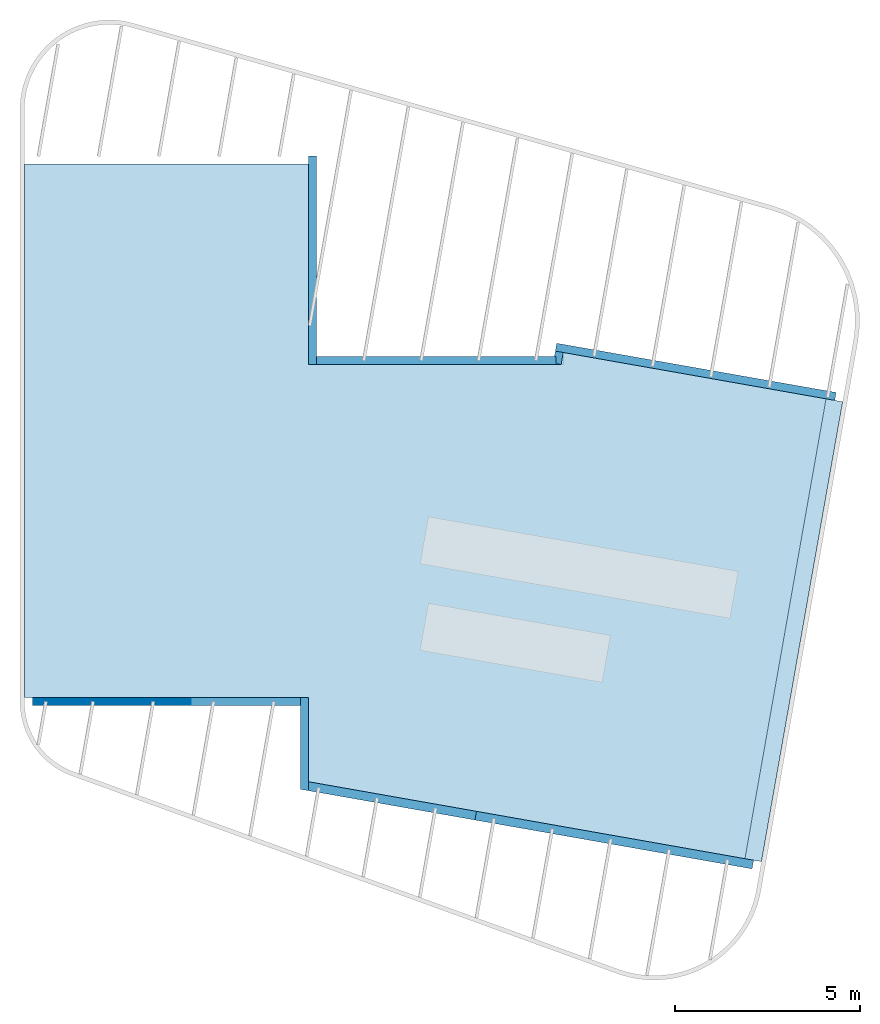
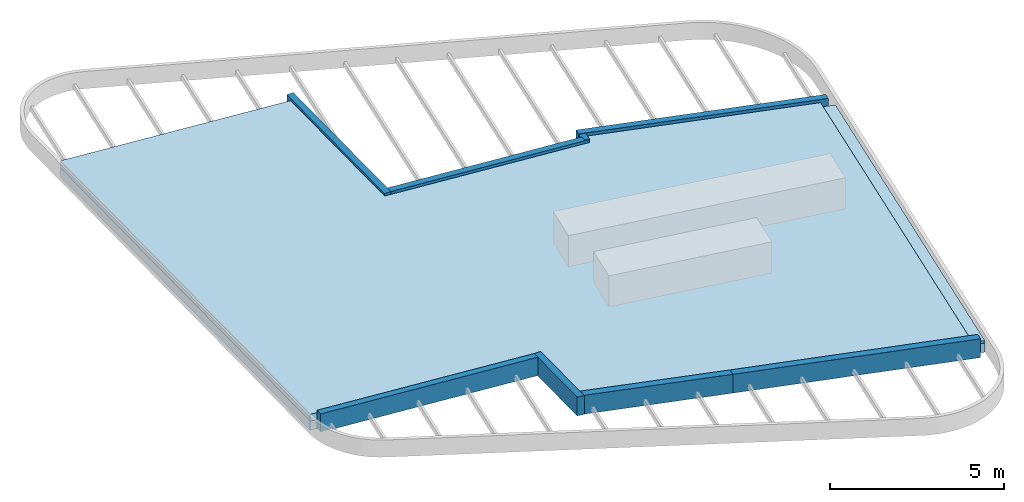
# One storey, part 2 of 3: 8 walls, 3 slabs, 1 opening, 2 elements without a shape of their own.
"""IFC2X3 building model written with IfcOpenShell, lengths in millimetres."""

from ifc_helpers import new_model, entity, si_unit, converted_unit, derived_unit, direction, frame, frame_2d, origin, place, context, subcontext, project, spatial, polyline, rectangle, outline, extrude, clip, halfspace, bounded_halfspace, faceted_brep, material, layer, layer_set, layer_usage, type_object, element, aggregate, save


model = new_model("IFC2X3")

# Units and contexts
model_context = context("Model", 3, precision=0.01, world=origin(), true_north=direction((6.12303176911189e-17, 1.0)))
body_context = subcontext(model_context, "Body", "Model", "MODEL_VIEW")
ifc_project = project(units=[si_unit("LENGTHUNIT", "METRE", prefix="MILLI"), si_unit("AREAUNIT", "SQUARE_METRE"), si_unit("VOLUMEUNIT", "CUBIC_METRE"), converted_unit("PLANEANGLEUNIT", "DEGREE", entity("IfcRatioMeasure", 0.0174532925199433), si_unit("PLANEANGLEUNIT", "RADIAN"), dimensions=[0, 0, 0, 0, 0, 0, 0]), si_unit("MASSUNIT", "GRAM", prefix="KILO"), derived_unit("MASSDENSITYUNIT", [(si_unit("MASSUNIT", "GRAM", prefix="KILO"), 1), (si_unit("LENGTHUNIT", "METRE"), -3)]), derived_unit("MOMENTOFINERTIAUNIT", [(si_unit("LENGTHUNIT", "METRE"), 4)]), si_unit("TIMEUNIT", "SECOND"), si_unit("FREQUENCYUNIT", "HERTZ"), si_unit("THERMODYNAMICTEMPERATUREUNIT", "DEGREE_CELSIUS"), derived_unit("THERMALTRANSMITTANCEUNIT", [(si_unit("MASSUNIT", "GRAM", prefix="KILO"), 1), (si_unit("THERMODYNAMICTEMPERATUREUNIT", "KELVIN"), -1), (si_unit("TIMEUNIT", "SECOND"), -3)]), derived_unit("VOLUMETRICFLOWRATEUNIT", [(si_unit("LENGTHUNIT", "METRE"), 3), (si_unit("TIMEUNIT", "SECOND"), -1)]), si_unit("ELECTRICCURRENTUNIT", "AMPERE"), si_unit("ELECTRICVOLTAGEUNIT", "VOLT"), si_unit("POWERUNIT", "WATT"), si_unit("FORCEUNIT", "NEWTON", prefix="KILO"), si_unit("ILLUMINANCEUNIT", "LUX"), si_unit("LUMINOUSFLUXUNIT", "LUMEN"), si_unit("LUMINOUSINTENSITYUNIT", "CANDELA"), derived_unit("USERDEFINED", [(si_unit("MASSUNIT", "GRAM", prefix="KILO"), -1), (si_unit("LENGTHUNIT", "METRE"), -2), (si_unit("TIMEUNIT", "SECOND"), 3), (si_unit("LUMINOUSFLUXUNIT", "LUMEN"), 1)]), derived_unit("LINEARVELOCITYUNIT", [(si_unit("LENGTHUNIT", "METRE"), 1), (si_unit("TIMEUNIT", "SECOND"), -1)]), si_unit("PRESSUREUNIT", "PASCAL"), derived_unit("USERDEFINED", [(si_unit("LENGTHUNIT", "METRE"), -2), (si_unit("MASSUNIT", "GRAM", prefix="KILO"), 1), (si_unit("TIMEUNIT", "SECOND"), -2)]), derived_unit("LINEARFORCEUNIT", [(si_unit("MASSUNIT", "GRAM", prefix="KILO"), 1), (si_unit("LENGTHUNIT", "METRE"), 1), (si_unit("TIMEUNIT", "SECOND"), -2), (si_unit("LENGTHUNIT", "METRE"), -1)]), derived_unit("PLANARFORCEUNIT", [(si_unit("MASSUNIT", "GRAM", prefix="KILO"), 1), (si_unit("LENGTHUNIT", "METRE"), 1), (si_unit("TIMEUNIT", "SECOND"), -2), (si_unit("LENGTHUNIT", "METRE"), -2)])], contexts=[model_context])

# Site, building, storey
site_placement = place(None, origin())
site = spatial("IfcSite", under=ifc_project, at=site_placement, Name="<Kadaster Gemeente>;<Kadaster nummer>;<Kadaster sectie>", CompositionType="ELEMENT")
building_placement = place(site_placement, origin())
building = spatial("IfcBuilding", under=site, at=building_placement, Name="JRCZ Middelburg", CompositionType="ELEMENT")
storey_placement = place(building_placement, frame((0.0, 0.0, 6000.0)))
storey = spatial("IfcBuildingStorey", under=building, at=storey_placement, Name="03 dak", CompositionType="ELEMENT", Elevation=6000.0)

# Slab
ifc_material_1 = material(Name="RBM_i4_multiplex_beplating")
ifc_layer_1 = layer(ifc_material_1, 320.0)
ifc_layer_set_1 = layer_set([ifc_layer_1], Name="Floor:RBM_23_FL_houten kanaalplaat-320mm")
ifc_layer_usage_1 = layer_usage(ifc_layer_set_1, "AXIS3", "POSITIVE", 0.0)
slab_type_1 = type_object("IfcSlabType", Name="Floor:RBM_23_FL_houten kanaalplaat-320mm", PredefinedType="FLOOR", material=ifc_layer_set_1)
slab_1_placement = place(storey_placement, origin())
element("IfcSlab", 1, at=slab_1_placement, inside=storey, type_object=slab_type_1, material=ifc_layer_usage_1, Name="Floor:RBM_23_FL_houten kanaalplaat-320mm", ObjectType="Floor:RBM_23_FL_houten kanaalplaat-320mm", PredefinedType="FLOOR", context=body_context, shape_type="Clipping", body=[
    clip(clip(extrude(outline(polyline([(-5726.64469005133, -10194.6566352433), (8674.5764825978, -10194.6566352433), (8667.208710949, -2513.79446142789), (3250.749414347, -2513.79446142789), (3244.1251105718, 4392.00646727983), (3573.19435637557, 4360.7415540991), (2232.26417186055, 11944.2358624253), (-10174.7657477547, 9747.50723239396), (-8006.69534719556, -2513.79446142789), (-5734.01246170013, -2513.79446142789), (-5726.64469005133, -10194.6566352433)])), frame((19706.9666840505, 15735.9373593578, 816.41828591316), z_axis=(-0.0736537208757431, 0.012987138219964, -0.997199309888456), x_axis=(0.0, 0.999915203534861, 0.0130225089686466)), (-0.0130225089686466, 0.0736474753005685, 0.997199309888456), 321.800000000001), halfspace(frame((30232.3182712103, 12740.6321031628, -320.898737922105), z_axis=(-0.0736537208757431, 0.0129871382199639, -0.997199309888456), x_axis=(-0.982049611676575, 0.173161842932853, 0.0747899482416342)), False)), halfspace(frame((30232.3182712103, 12740.6321031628, 0.0), z_axis=(0.0736537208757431, -0.0129871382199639, 0.997199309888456), x_axis=(0.982049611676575, -0.173161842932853, -0.0747899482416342)), False)),
])

# Roof, slab
roof_1_placement = place(storey_placement, frame((9540.0, 5650.01628147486, 0.0)))
roof_1 = element("IfcRoof", 2, at=roof_1_placement, inside=storey, Name="Basic Roof:Dak_isolatie+afwerking", ObjectType="Basic Roof:Dak_isolatie+afwerking", ShapeType="NOTDEFINED")
ifc_material_2 = material(Name="RBM_n7_dakisolatie_240mm")
ifc_layer_2 = layer(ifc_material_2, 240.0)
ifc_layer_set_2 = layer_set([ifc_layer_2], Name="Basic Roof:Dak_isolatie+afwerking")
slab_type_2 = type_object("IfcSlabType", Name="Basic Roof:Dak_isolatie+afwerking", PredefinedType="ROOF")
slab_2_placement = place(roof_1_placement, origin())
slab_2 = element("IfcSlab", 3, at=slab_2_placement, type_object=slab_type_2, material=ifc_layer_set_2, Name="Basic Roof:Dak_isolatie+afwerking", ObjectType="Basic Roof:Dak_isolatie+afwerking", PredefinedType="NOTDEFINED", context=body_context, shape_type="SweptSolid", body=[
    extrude(outline(polyline([(-2182.44211051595, -5678.3649175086), (-2182.44211051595, -7951.04780300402), (9631.69795042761, -10040.0500976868), (11825.623964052, 2367.47538674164), (4715.69669853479, 3624.66840257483), (4658.25895792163, 3299.8351009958), (-2182.44211051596, 3306.39695853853), (-2182.44211051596, 8722.8562551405), (-9863.30428433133, 8730.2240267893), (-9863.30428433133, -5670.99714585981), (-2182.44211051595, -5678.3649175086)])), frame((9836.5143271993, 10029.9604337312, 840.096879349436), z_axis=(0.0736537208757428, -0.0129871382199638, 0.997199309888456), x_axis=(0.997283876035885, 0.000959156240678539, -0.0736474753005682)), (-0.0736474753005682, 0.0130225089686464, 0.997199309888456), 240.674053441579),
])
aggregate(roof_1, [slab_2])

roof_2_placement = place(storey_placement, frame((28982.0513920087, 5571.38377816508, -30.7499999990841)))
roof_2 = element("IfcRoof", 4, at=roof_2_placement, inside=storey, Name="Basic Roof:Dak_isolatie goot", ObjectType="Basic Roof:Dak_isolatie goot", ShapeType="NOTDEFINED")
ifc_material_3 = material(Name="RBM_n7_dakisolatie_80")
ifc_layer_3 = layer(ifc_material_3, 80.0)
ifc_layer_set_3 = layer_set([ifc_layer_3], Name="Basic Roof:Dak_isolatie goot")
slab_type_3 = type_object("IfcSlabType", Name="Basic Roof:Dak_isolatie goot", PredefinedType="ROOF")
slab_3_placement = place(roof_2_placement, origin())
slab_3 = element("IfcSlab", 5, at=slab_3_placement, type_object=slab_type_3, material=ifc_layer_set_3, Name="Basic Roof:Dak_isolatie goot", ObjectType="Basic Roof:Dak_isolatie goot", PredefinedType="NOTDEFINED", context=body_context, shape_type="SweptSolid", body=[
    extrude(outline(polyline([(873.381945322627, 6243.29679727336), (-1320.54359272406, -6164.22877307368), (-873.382056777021, -6243.29742676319), (1323.3460970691, 6163.7325753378), (873.381945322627, 6243.29679727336)])), frame((1316.95711810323, 6243.60541040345, 17.0874243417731), z_axis=(0.0736507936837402, -0.0130037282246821, 0.997199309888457), x_axis=(0.997284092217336, 0.000960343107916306, -0.0736445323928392)), (-0.0736445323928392, 0.0130391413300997, 0.997199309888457), 80.224684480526),
])
aggregate(roof_2, [slab_3])

# Wall
ifc_material_4 = material(Name="gevel antraciet")
ifc_layer_4 = layer(ifc_material_4, 8.0)
ifc_material_5 = material(Name="ISR_Luchtspouw")
ifc_layer_5 = layer(ifc_material_5, 35.0)
ifc_layer_6 = layer(ifc_material_5, 35.0)
ifc_material_6 = material(Name="RBM_n7_isolatie_hsb_270")
ifc_layer_7 = layer(ifc_material_6, 138.0)
ifc_layer_set_4 = layer_set([ifc_layer_4, ifc_layer_5, ifc_layer_6, ifc_layer_7], Name="Basic Wall:21_RBM_WA_dakrand/pas strook_rockpanel")
ifc_layer_usage_2 = layer_usage(ifc_layer_set_4, "AXIS2", "NEGATIVE", 108.0)
wall_type_1 = type_object("IfcWallType", Name="Basic Wall:21_RBM_WA_dakrand/pas strook_rockpanel", PredefinedType="STANDARD", material=ifc_layer_set_4)
wall_1_placement = place(storey_placement, frame((17308.0, 24616.0, 722.987076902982), z_axis=(0.0, 0.0, 1.0), x_axis=(0.0, -1.0, 0.0)))
element("IfcWallStandardCase", 6, at=wall_1_placement, inside=storey, type_object=wall_type_1, material=ifc_layer_usage_2, Name="Basic Wall:21_RBM_WA_dakrand/pas strook_rockpanel", ObjectType="Basic Wall:21_RBM_WA_dakrand/pas strook_rockpanel", context=body_context, shape_type="Clipping", body=[
    clip(clip(extrude(rectangle(XDim=5632.00000000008, YDim=215.999999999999, at=frame_2d((2816.00000000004, 2.62900812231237e-13), x_axis=(-1.0, 0.0))), origin(), (0.0, 0.0, 1.0), 713.878868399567), halfspace(frame((5632.0, -108.0, 0.0), z_axis=(-0.0130225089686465, 0.0, -0.999915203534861), x_axis=(0.0, 1.0, 0.0)), False)), halfspace(frame((0.0, -108.0, 713.878868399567), z_axis=(0.0130225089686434, 0.0, 0.999915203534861), x_axis=(0.0, 1.0, 0.0)), False)),
])

# Wall, opening
ifc_layer_usage_3 = layer_usage(ifc_layer_set_4, "AXIS2", "NEGATIVE", 108.0)
wall_2_placement = place(storey_placement, frame((17416.0, 19092.0, 235.389408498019)))
wall_2 = element("IfcWallStandardCase", 7, at=wall_2_placement, inside=storey, type_object=wall_type_1, material=ifc_layer_usage_3, Name="Basic Wall:21_RBM_WA_dakrand/pas strook_rockpanel", ObjectType="Basic Wall:21_RBM_WA_dakrand/pas strook_rockpanel", context=body_context, shape_type="Clipping", body=[
    clip(extrude(rectangle(XDim=6606.12087633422, YDim=215.999999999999, at=frame_2d((3303.06043816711, -2.8421709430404e-14), x_axis=(-1.0, 0.0))), origin(), (0.0, 0.0, 1.0), 1128.12754655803), halfspace(frame((0.0, -108.0, 1128.12754655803), z_axis=(0.0726944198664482, 0.0, 0.997354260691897), x_axis=(0.0, 1.0, 0.0)), False)),
])
opening_placement = place(wall_2_placement, origin())
element("IfcOpeningElement", 8, at=opening_placement, cuts=wall_2, Name="Basic Wall:21_RBM_WA_dakrand/pas strook_rockpanel", ObjectType="Opening", context=body_context, shape_type="SweptSolid", body=[
    extrude(outline(polyline([(-3235.51142631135, -3192.5), (3471.31133267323, -3192.5), (2999.71151994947, 3192.5), (-3235.51142631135, 3192.5), (-3235.51142631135, -3192.5)])), frame((3216.44187850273, -260.400000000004, -2999.87798218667), z_axis=(0.0, 1.0, 0.0), x_axis=(0.0, 0.0, 1.0)), (0.0, 0.0, 1.0), 520.800000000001),
])

# Walls
wall_3_placement = place(storey_placement, frame((23915.761639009, 19002.7540031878, 330.265808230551), z_axis=(0.0, 0.0, 1.0), x_axis=(0.173648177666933, 0.984807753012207, 0.0)))
element("IfcWall", 9, at=wall_3_placement, inside=storey, type_object=wall_type_1, Name="Basic Wall:21_RBM_WA_dakrand/pas strook_rockpanel", ObjectType="Basic Wall:21_RBM_WA_dakrand/pas strook_rockpanel", context=body_context, shape_type="Brep", body=[
    faceted_brep([(0.0, -108.0, 0.0), (329.872350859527, -108.0, 0.0), (329.872350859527, -108.0, 209.734191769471), (329.872350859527, -108.0, 450.40824521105), (329.872350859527, -108.0, 562.155003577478), (0.0, -108.0, 562.155003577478), (0.0, -108.0, 551.749093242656), (0.0, -108.0, 450.40824521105), (0.0, -108.0, 209.734191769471), (181.24552033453, 108.0, 562.155003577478), (329.872350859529, 108.0, 562.155003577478), (329.872350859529, 108.0, 0.0), (181.245520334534, 108.0, 0.0), (212.718474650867, -70.4919936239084, 551.749093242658), (187.927209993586, 70.1062549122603, 562.155003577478), (212.718474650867, -70.4919936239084, 0.0), (0.0, 36.9696173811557, 562.155003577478)], [[[0, 1, 2, 3, 4, 5, 6, 7, 8]], [[9, 10, 11, 12]], [[13, 14, 9, 12, 15]], [[6, 13, 15, 0, 8, 7]], [[13, 6, 16, 14]], [[1, 0, 15, 12, 11]], [[5, 4, 10, 9, 14, 16]], [[5, 16, 6]], [[1, 11, 10, 4, 3, 2]]]),
])
ifc_layer_usage_4 = layer_usage(ifc_layer_set_4, "AXIS2", "NEGATIVE", 108.0)
wall_4_placement = place(storey_placement, frame((23885.4381374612, 19452.728092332, -339.031183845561), z_axis=(0.0, 0.0, 1.0), x_axis=(0.984807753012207, -0.173648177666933, 0.0)))
element("IfcWallStandardCase", 10, at=wall_4_placement, inside=storey, type_object=wall_type_1, material=ifc_layer_usage_4, Name="Basic Wall:21_RBM_WA_dakrand/pas strook_rockpanel", ObjectType="Basic Wall:21_RBM_WA_dakrand/pas strook_rockpanel", context=body_context, shape_type="Clipping", body=[
    clip(clip(extrude(rectangle(XDim=7654.00000000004, YDim=215.999999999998, at=frame_2d((3827.00000000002, -1.70530256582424e-12), x_axis=(-1.0, 0.0))), origin(), (0.0, 0.0, 1.0), 1249.09984622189), halfspace(frame((7654.0, -108.0, 0.0), z_axis=(-0.0762334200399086, 0.0, -0.997089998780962), x_axis=(0.0, 1.0, 0.0)), False)), halfspace(frame((0.0, -108.0, 1249.09984622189), z_axis=(0.075467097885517, 0.0, 0.997148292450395), x_axis=(0.0, 1.0, 0.0)), False)),
])
ifc_layer_usage_5 = layer_usage(ifc_layer_set_4, "AXIS2", "NEGATIVE", 108.0)
wall_5_placement = place(storey_placement, frame((17098.0, 7484.78033446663, 573.19459106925), z_axis=(0.0, 0.0, 1.0), x_axis=(0.0, 1.0, 0.0)))
element("IfcWallStandardCase", 11, at=wall_5_placement, inside=storey, type_object=wall_type_1, material=ifc_layer_usage_5, Name="Basic Wall:21_RBM_WA_dakrand/pas strook_rockpanel", ObjectType="Basic Wall:21_RBM_WA_dakrand/pas strook_rockpanel", context=body_context, shape_type="SweptSolid", body=[
    extrude(outline(polyline([(-1657.71493887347, -108.0), (819.041421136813, -108.0), (819.628585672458, -108.0), (857.718449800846, 108.0), (819.041421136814, 108.0), (-1657.71493887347, 108.0), (-1657.71493887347, -108.0)])), frame((857.645573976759, 0.0, 11.1807230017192), z_axis=(-0.0130354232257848, 0.0, 0.999915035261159), x_axis=(-0.999915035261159, 0.0, -0.0130354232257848)), (-0.0130354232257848, 0.0, 0.999915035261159), 661.587752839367),
])
ifc_layer_usage_6 = layer_usage(ifc_layer_set_4, "AXIS2", "NEGATIVE", 108.0)
wall_6_placement = place(storey_placement, frame((16990.0, 9892.0, 621.49365690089), z_axis=(0.0, 0.0, 1.0), x_axis=(-1.0, 0.0, 0.0)))
element("IfcWallStandardCase", 12, at=wall_6_placement, inside=storey, type_object=wall_type_1, material=ifc_layer_usage_6, Name="Basic Wall:21_RBM_WA_dakrand/pas strook_rockpanel", ObjectType="Basic Wall:21_RBM_WA_dakrand/pas strook_rockpanel", context=body_context, shape_type="Clipping", body=[
    clip(clip(clip(clip(extrude(rectangle(XDim=7227.99999999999, YDim=215.999999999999, at=frame_2d((3614.0, -3.69482222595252e-13), x_axis=(-1.0, 0.0))), origin(), (0.0, 0.0, 1.0), 1179.92635216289), bounded_halfspace(frame((6840.0, 108.0, 542.102995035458), z_axis=(-1.0, 0.0, 0.0), x_axis=(0.0, -1.0, 0.0)), True, frame((6840.0, 108.0, 542.102995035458), z_axis=(-1.0, 0.0, 0.0), x_axis=(0.0, -1.0, 0.0)), polyline([(0.0, 0.0), (0.0, -36.8966177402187), (216.0, -36.8966177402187), (216.0, 2.8386712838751), (0.0, 0.0)]))), bounded_halfspace(frame((6840.0, -108.0, 544.941666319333), z_axis=(0.0, 0.0131408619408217, 0.999913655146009), x_axis=(1.0, 0.0, 0.0)), True, frame((6840.0, -108.0, 544.941666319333), z_axis=(0.0, 0.0131408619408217, 0.999913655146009), x_axis=(1.0, 0.0, 0.0)), polyline([(0.0, 0.0), (388.0, 0.0), (388.0, 216.018652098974), (141.398562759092, 216.018652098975), (128.29614729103, 216.018652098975), (0.0, 216.018652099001), (0.0, 0.0)]))), halfspace(frame((0.0, -108.0, 0.0), z_axis=(0.0736599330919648, 0.0, -0.997283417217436), x_axis=(0.0, 1.0, 0.0)), False)), halfspace(frame((0.0, -108.0, 646.062069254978), z_axis=(-0.0736599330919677, 0.0, 0.997283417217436), x_axis=(0.0, 1.0, 0.0)), False)),
])
ifc_material_7 = material(Name="Gevelafwerking")
ifc_layer_8 = layer(ifc_material_7, 30.0)
ifc_layer_9 = layer(ifc_material_5, 35.0)
ifc_layer_10 = layer(ifc_material_5, 35.0)
ifc_material_8 = material(Name="RBM_n7_isolatie_hsb_invulling")
ifc_layer_11 = layer(ifc_material_8, 138.0)
ifc_layer_set_5 = layer_set([ifc_layer_8, ifc_layer_9, ifc_layer_10, ifc_layer_11], Name="Basic Wall:21_RBM_WA_dakrand_houten bekleding")
wall_type_2 = type_object("IfcWallType", Name="Basic Wall:21_RBM_WA_dakrand_houten bekleding", PredefinedType="STANDARD", material=ifc_layer_set_5)
wall_7_placement = place(storey_placement, frame((29195.771504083, 5491.49589258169, -338.748737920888), z_axis=(0.0, 0.0, 1.0), x_axis=(-0.984807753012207, 0.173648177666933, 0.0)))
element("IfcWall", 13, at=wall_7_placement, inside=storey, type_object=wall_type_2, Name="Basic Wall:21_RBM_WA_dakrand_houten bekleding", ObjectType="Basic Wall:21_RBM_WA_dakrand_houten bekleding", context=body_context, shape_type="Brep", body=[
    faceted_brep([(7594.0, -119.0, 569.550000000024), (7594.0, -119.0, 1231.56595485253), (0.0, -119.0, 662.015954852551), (0.0, -119.0, 0.0), (388.0, -119.0, 29.100000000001), (7594.0, 119.0, 1231.56595485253), (7594.0, 119.0, 569.550000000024), (388.0, 119.0, 29.100000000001), (0.0, 119.0, 0.0), (0.0, 119.0, 662.015954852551)], [[[0, 1, 2, 3, 4]], [[5, 6, 7, 8, 9]], [[6, 0, 4, 3, 8, 7]], [[1, 0, 6, 5]], [[2, 1, 5, 9]], [[3, 2, 9, 8]]]),
])
ifc_layer_12 = layer(ifc_material_4, 8.0)
ifc_layer_13 = layer(ifc_material_5, 22.0)
ifc_layer_14 = layer(ifc_material_5, 35.0)
ifc_layer_15 = layer(ifc_material_5, 35.0)
ifc_layer_16 = layer(ifc_material_6, 138.0)
ifc_layer_set_6 = layer_set([ifc_layer_12, ifc_layer_13, ifc_layer_14, ifc_layer_15, ifc_layer_16], Name="Basic Wall:21_RBM_WA_dakrand_rockpanel_uitvullen")
wall_type_3 = type_object("IfcWallType", Name="Basic Wall:21_RBM_WA_dakrand_rockpanel_uitvullen", PredefinedType="STANDARD", material=ifc_layer_set_6)
wall_8_placement = place(storey_placement, frame((21717.1414277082, 6810.18015378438, 230.801262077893), z_axis=(0.0, 0.0, 1.0), x_axis=(-0.984807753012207, 0.173648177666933, 0.0)))
element("IfcWall", 14, at=wall_8_placement, inside=storey, type_object=wall_type_3, Name="Basic Wall:21_RBM_WA_dakrand_rockpanel_uitvullen", ObjectType="Basic Wall:21_RBM_WA_dakrand_rockpanel_uitvullen", context=body_context, shape_type="Brep", body=[
    faceted_brep([(0.0, -119.0, 0.0), (4601.71596637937, -119.0, 355.900477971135), (4601.71596637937, -119.0, 1017.91643282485), (0.0, -119.0, 662.015954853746), (0.0, 119.0, 0.0), (0.0, 119.0, 662.015954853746), (4559.75014497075, 119.0, 1014.67076186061), (4559.75014497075, 119.0, 1003.99721572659), (4559.75014497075, 119.0, 352.65480700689)], [[[0, 1, 2, 3]], [[4, 5, 6, 7, 8]], [[1, 0, 4, 8]], [[3, 2, 6, 5]], [[0, 3, 5, 4]], [[2, 1, 8, 7, 6]]]),
])

save(model, "model.ifc")
